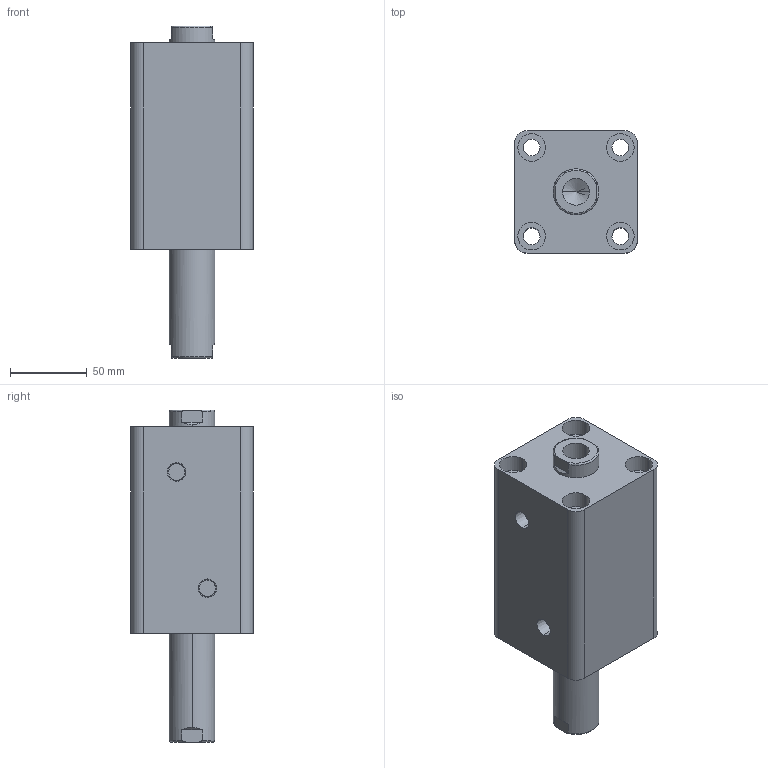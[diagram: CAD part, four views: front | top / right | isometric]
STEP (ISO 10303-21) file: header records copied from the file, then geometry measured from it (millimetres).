
FILE_DESCRIPTION (( 'STEP AP203' ), '1' );
FILE_NAME ('HTB-SW50-60N.STEP', '2019-10-07T09:22:20', ( '微软用户' ), ( '微软中国' ), 'SwSTEP 2.0', 'SolidWorks 2012', '' );
FILE_SCHEMA (( 'CONFIG_CONTROL_DESIGN' ));
Length unit declared in the file: millimetre
Products named in the file (3): HTB-SW50-60N; HTB-SW50-60N活塞杆; HTB-SW50-60掛极
Assembly tree (2 placements, depth 2):
  HTB-SW50-60N
    HTB-SW50-60掛极
    HTB-SW50-60N活塞杆
Bounding box: 80 x 80 x 217 mm (x, y, z)
Volume: 758420 mm3; surface area: 121879.2 mm2
Topology: 2 solids, 2 shells, 100 faces, 228 edges, 146 vertices
Faces by surface type: cylinder 48, plane 32, torus 12, cone 8
Entity records: 3237 total; most frequent: CARTESIAN_POINT 595, DIRECTION 542, ORIENTED_EDGE 448, AXIS2_PLACEMENT_3D 229, EDGE_CURVE 224, VERTEX_POINT 146, EDGE_LOOP 128, CIRCLE 124
